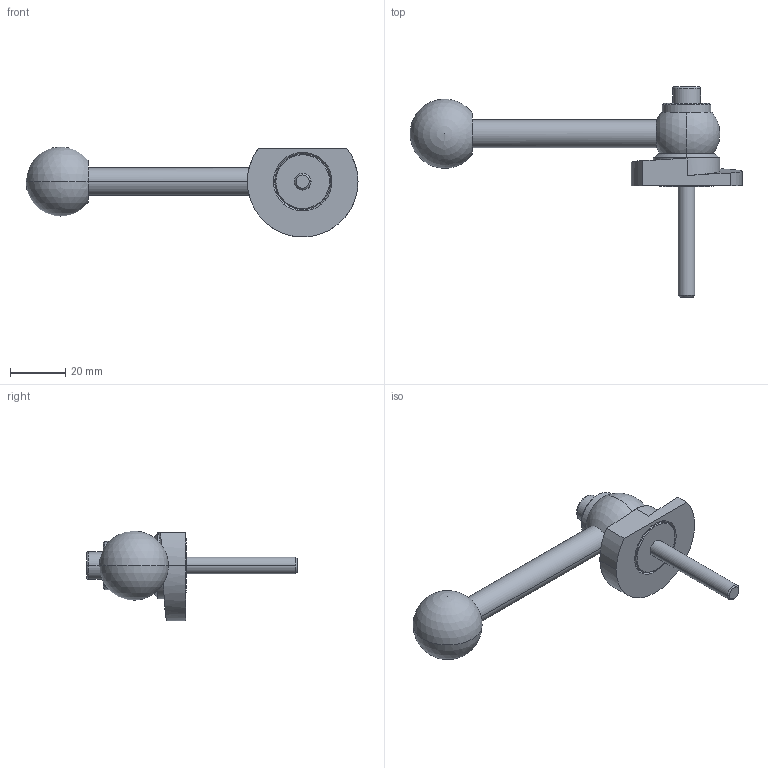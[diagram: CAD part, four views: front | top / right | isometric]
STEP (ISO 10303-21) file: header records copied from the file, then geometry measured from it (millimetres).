
FILE_DESCRIPTION (( 'STEP AP214' ), '1' );
FILE_NAME ('918.1-40-GVS-R-40.step', '2024-05-15T12:59:44', ( '' ), ( '' ), 'SwSTEP 2.0', 'SolidWorks 2022', '' );
FILE_SCHEMA (( 'AUTOMOTIVE_DESIGN' ));
Length unit declared in the file: millimetre
Products named in the file (1): 918.1-40-GVS-R-40
Bounding box: 120 x 76 x 32.5 mm (x, y, z)
Volume: 30638.7 mm3; surface area: 11493.1 mm2
Topology: 1 solids, 1 shells, 64 faces, 147 edges, 93 vertices
Faces by surface type: cylinder 22, plane 20, cone 14, sphere 4, torus 2, bspline 2
Entity records: 2045 total; most frequent: CARTESIAN_POINT 590, DIRECTION 321, ORIENTED_EDGE 274, EDGE_CURVE 137, AXIS2_PLACEMENT_3D 131, VERTEX_POINT 87, EDGE_LOOP 76, CIRCLE 68
